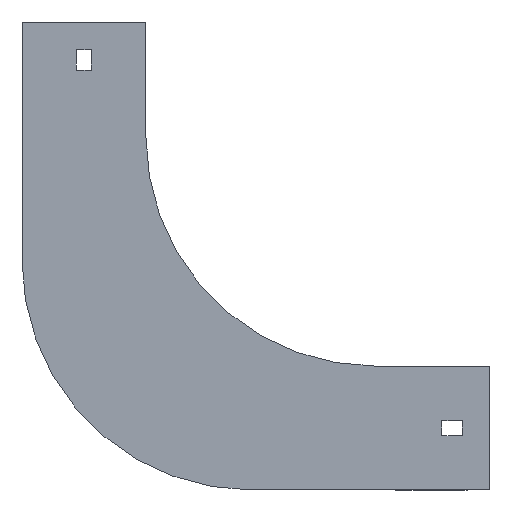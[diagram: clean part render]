
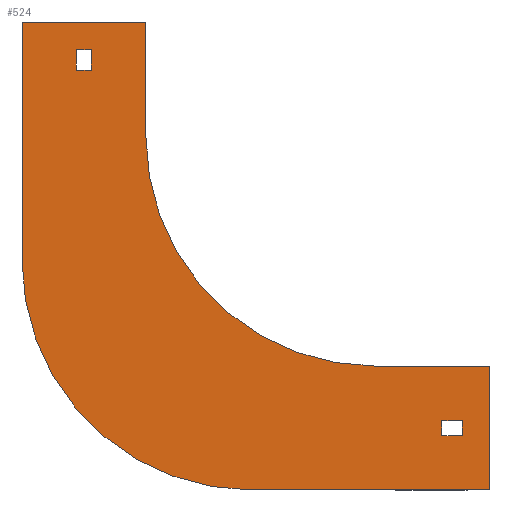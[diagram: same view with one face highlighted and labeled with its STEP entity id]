
A CAD part, front view. The second image highlights one B-rep face of the part: STEP entity #524.
In plain terms, the highlighted planar face has unit normal (0, -1, 0).
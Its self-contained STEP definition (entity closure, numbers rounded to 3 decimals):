
#5 = LINE ( 'NONE', #406, #955 ) ;
#6 = EDGE_CURVE ( 'NONE', #319, #623, #618, .T. ) ;
#16 = EDGE_CURVE ( 'NONE', #284, #1351, #1185, .T. ) ;
#26 = LINE ( 'NONE', #243, #868 ) ;
#35 = DIRECTION ( 'NONE',  ( 0., 1., 0. ) ) ;
#43 = CARTESIAN_POINT ( 'NONE',  ( -100., 0., 0. ) ) ;
#50 = CARTESIAN_POINT ( 'NONE',  ( -54., 0., -54. ) ) ;
#81 = VERTEX_POINT ( 'NONE', #441 ) ;
#113 = VECTOR ( 'NONE', #256, 1000. ) ;
#126 = LINE ( 'NONE', #567, #429 ) ;
#139 = CARTESIAN_POINT ( 'NONE',  ( 29., 0., -130.25 ) ) ;
#199 = CARTESIAN_POINT ( 'NONE',  ( 50., 0., -100. ) ) ;
#201 = CIRCLE ( 'NONE', #730, 100. ) ;
#203 = ORIENTED_EDGE ( 'NONE', *, *, #522, .F. ) ;
#205 = VECTOR ( 'NONE', #493, 1000. ) ;
#224 = DIRECTION ( 'NONE',  ( 0., -1., 0. ) ) ;
#240 = CARTESIAN_POINT ( 'NONE',  ( -100., 0., 50. ) ) ;
#243 = CARTESIAN_POINT ( 'NONE',  ( -130.25, 0., 29. ) ) ;
#250 = CARTESIAN_POINT ( 'NONE',  ( -123.75, 0., 38. ) ) ;
#256 = DIRECTION ( 'NONE',  ( 0., 0., 1. ) ) ;
#265 = CARTESIAN_POINT ( 'NONE',  ( 38., 0., -130.25 ) ) ;
#266 = LINE ( 'NONE', #823, #1236 ) ;
#284 = VERTEX_POINT ( 'NONE', #742 ) ;
#303 = DIRECTION ( 'NONE',  ( 0., 0., -1. ) ) ;
#319 = VERTEX_POINT ( 'NONE', #139 ) ;
#321 = DIRECTION ( 'NONE',  ( 1., 0., 0. ) ) ;
#324 = CARTESIAN_POINT ( 'NONE',  ( -123.75, 0., 29. ) ) ;
#325 = PLANE ( 'NONE',  #338 ) ;
#338 = AXIS2_PLACEMENT_3D ( 'NONE', #746, #224, #635 ) ;
#340 = CARTESIAN_POINT ( 'NONE',  ( 0., 0., 0. ) ) ;
#377 = VERTEX_POINT ( 'NONE', #43 ) ;
#406 = CARTESIAN_POINT ( 'NONE',  ( 29., 0., -130.25 ) ) ;
#411 = VERTEX_POINT ( 'NONE', #1031 ) ;
#414 = FACE_OUTER_BOUND ( 'NONE', #1184, .T. ) ;
#423 = EDGE_CURVE ( 'NONE', #1351, #1176, #1153, .T. ) ;
#425 = CARTESIAN_POINT ( 'NONE',  ( -130.25, 0., 38. ) ) ;
#429 = VECTOR ( 'NONE', #874, 1000. ) ;
#441 = CARTESIAN_POINT ( 'NONE',  ( -130.25, 0., 38. ) ) ;
#455 = DIRECTION ( 'NONE',  ( 0., 0., 1. ) ) ;
#459 = DIRECTION ( 'NONE',  ( 1., 0., 0. ) ) ;
#467 = CARTESIAN_POINT ( 'NONE',  ( -154., 0., 50. ) ) ;
#471 = DIRECTION ( 'NONE',  ( 0., 0., 1. ) ) ;
#473 = ORIENTED_EDGE ( 'NONE', *, *, #889, .F. ) ;
#491 = VECTOR ( 'NONE', #321, 1000. ) ;
#493 = DIRECTION ( 'NONE',  ( -1., 0., 0. ) ) ;
#501 = ORIENTED_EDGE ( 'NONE', *, *, #1152, .F. ) ;
#505 = EDGE_LOOP ( 'NONE', ( #764, #944, #765, #1268 ) ) ;
#522 = EDGE_CURVE ( 'NONE', #411, #319, #5, .T. ) ;
#524 = ADVANCED_FACE ( 'NONE', ( #976, #414, #852 ), #325, .T. ) ;
#528 = CARTESIAN_POINT ( 'NONE',  ( 29., 0., -130.25 ) ) ;
#543 = AXIS2_PLACEMENT_3D ( 'NONE', #340, #668, #554 ) ;
#553 = EDGE_CURVE ( 'NONE', #960, #1374, #1331, .T. ) ;
#554 = DIRECTION ( 'NONE',  ( 0., 0., -1. ) ) ;
#567 = CARTESIAN_POINT ( 'NONE',  ( -100., 0., 50. ) ) ;
#587 = VERTEX_POINT ( 'NONE', #250 ) ;
#588 = DIRECTION ( 'NONE',  ( -1., 0., 0. ) ) ;
#618 = LINE ( 'NONE', #528, #887 ) ;
#619 = DIRECTION ( 'NONE',  ( 0., 0., -1. ) ) ;
#623 = VERTEX_POINT ( 'NONE', #734 ) ;
#635 = DIRECTION ( 'NONE',  ( 0., 0., -1. ) ) ;
#643 = CARTESIAN_POINT ( 'NONE',  ( -154., 0., -54. ) ) ;
#658 = CARTESIAN_POINT ( 'NONE',  ( 50., 0., -154. ) ) ;
#664 = VECTOR ( 'NONE', #619, 1000. ) ;
#668 = DIRECTION ( 'NONE',  ( 0., -1., 0. ) ) ;
#674 = LINE ( 'NONE', #691, #205 ) ;
#678 = EDGE_CURVE ( 'NONE', #587, #1382, #845, .T. ) ;
#682 = CARTESIAN_POINT ( 'NONE',  ( 50., 0., -154. ) ) ;
#691 = CARTESIAN_POINT ( 'NONE',  ( 29., 0., -123.75 ) ) ;
#706 = ORIENTED_EDGE ( 'NONE', *, *, #553, .F. ) ;
#708 = EDGE_CURVE ( 'NONE', #623, #948, #790, .T. ) ;
#714 = VERTEX_POINT ( 'NONE', #240 ) ;
#720 = ORIENTED_EDGE ( 'NONE', *, *, #854, .F. ) ;
#725 = CARTESIAN_POINT ( 'NONE',  ( -154., 0., -54. ) ) ;
#726 = CIRCLE ( 'NONE', #543, 100. ) ;
#728 = EDGE_LOOP ( 'NONE', ( #925, #1305, #203, #1042 ) ) ;
#730 = AXIS2_PLACEMENT_3D ( 'NONE', #50, #35, #471 ) ;
#734 = CARTESIAN_POINT ( 'NONE',  ( 38., 0., -130.25 ) ) ;
#742 = CARTESIAN_POINT ( 'NONE',  ( 0., 0., -100. ) ) ;
#746 = CARTESIAN_POINT ( 'NONE',  ( 0., 0., 0. ) ) ;
#759 = VECTOR ( 'NONE', #1302, 1000. ) ;
#764 = ORIENTED_EDGE ( 'NONE', *, *, #1072, .T. ) ;
#765 = ORIENTED_EDGE ( 'NONE', *, *, #678, .T. ) ;
#770 = DIRECTION ( 'NONE',  ( -1., 0., 0. ) ) ;
#783 = VECTOR ( 'NONE', #455, 1000. ) ;
#790 = LINE ( 'NONE', #265, #783 ) ;
#823 = CARTESIAN_POINT ( 'NONE',  ( -130.25, 0., 29. ) ) ;
#829 = CARTESIAN_POINT ( 'NONE',  ( 38., 0., -123.75 ) ) ;
#839 = LINE ( 'NONE', #985, #858 ) ;
#842 = CARTESIAN_POINT ( 'NONE',  ( 50., 0., -100. ) ) ;
#845 = LINE ( 'NONE', #324, #759 ) ;
#852 = FACE_BOUND ( 'NONE', #728, .T. ) ;
#854 = EDGE_CURVE ( 'NONE', #714, #377, #126, .T. ) ;
#858 = VECTOR ( 'NONE', #459, 1000. ) ;
#868 = VECTOR ( 'NONE', #770, 1000. ) ;
#874 = DIRECTION ( 'NONE',  ( 0., 0., -1. ) ) ;
#887 = VECTOR ( 'NONE', #1297, 1000. ) ;
#889 = EDGE_CURVE ( 'NONE', #377, #284, #726, .T. ) ;
#925 = ORIENTED_EDGE ( 'NONE', *, *, #708, .F. ) ;
#926 = DIRECTION ( 'NONE',  ( 0., 0., 1. ) ) ;
#932 = ORIENTED_EDGE ( 'NONE', *, *, #1226, .F. ) ;
#944 = ORIENTED_EDGE ( 'NONE', *, *, #1309, .T. ) ;
#948 = VERTEX_POINT ( 'NONE', #829 ) ;
#955 = VECTOR ( 'NONE', #303, 1000. ) ;
#960 = VERTEX_POINT ( 'NONE', #725 ) ;
#969 = EDGE_CURVE ( 'NONE', #1374, #714, #839, .T. ) ;
#976 = FACE_BOUND ( 'NONE', #505, .T. ) ;
#985 = CARTESIAN_POINT ( 'NONE',  ( -154., 0., 50. ) ) ;
#992 = CARTESIAN_POINT ( 'NONE',  ( -54., 0., -154. ) ) ;
#1031 = CARTESIAN_POINT ( 'NONE',  ( 29., 0., -123.75 ) ) ;
#1042 = ORIENTED_EDGE ( 'NONE', *, *, #1165, .F. ) ;
#1066 = CARTESIAN_POINT ( 'NONE',  ( -130.25, 0., 29. ) ) ;
#1071 = CARTESIAN_POINT ( 'NONE',  ( 0., 0., -100. ) ) ;
#1072 = EDGE_CURVE ( 'NONE', #1246, #81, #266, .T. ) ;
#1075 = DIRECTION ( 'NONE',  ( 1., 0., 0. ) ) ;
#1093 = LINE ( 'NONE', #425, #1197 ) ;
#1136 = VERTEX_POINT ( 'NONE', #992 ) ;
#1152 = EDGE_CURVE ( 'NONE', #1176, #1136, #1218, .T. ) ;
#1153 = LINE ( 'NONE', #199, #664 ) ;
#1163 = EDGE_CURVE ( 'NONE', #1382, #1246, #26, .T. ) ;
#1165 = EDGE_CURVE ( 'NONE', #948, #411, #674, .T. ) ;
#1172 = ORIENTED_EDGE ( 'NONE', *, *, #969, .F. ) ;
#1176 = VERTEX_POINT ( 'NONE', #658 ) ;
#1184 = EDGE_LOOP ( 'NONE', ( #1172, #706, #932, #501, #1212, #1274, #473, #720 ) ) ;
#1185 = LINE ( 'NONE', #1071, #491 ) ;
#1197 = VECTOR ( 'NONE', #1075, 1000. ) ;
#1212 = ORIENTED_EDGE ( 'NONE', *, *, #423, .F. ) ;
#1218 = LINE ( 'NONE', #682, #1384 ) ;
#1226 = EDGE_CURVE ( 'NONE', #1136, #960, #201, .T. ) ;
#1236 = VECTOR ( 'NONE', #926, 1000. ) ;
#1244 = CARTESIAN_POINT ( 'NONE',  ( -123.75, 0., 29. ) ) ;
#1246 = VERTEX_POINT ( 'NONE', #1066 ) ;
#1268 = ORIENTED_EDGE ( 'NONE', *, *, #1163, .T. ) ;
#1274 = ORIENTED_EDGE ( 'NONE', *, *, #16, .F. ) ;
#1297 = DIRECTION ( 'NONE',  ( 1., 0., 0. ) ) ;
#1302 = DIRECTION ( 'NONE',  ( 0., 0., -1. ) ) ;
#1305 = ORIENTED_EDGE ( 'NONE', *, *, #6, .F. ) ;
#1309 = EDGE_CURVE ( 'NONE', #81, #587, #1093, .T. ) ;
#1331 = LINE ( 'NONE', #643, #113 ) ;
#1351 = VERTEX_POINT ( 'NONE', #842 ) ;
#1374 = VERTEX_POINT ( 'NONE', #467 ) ;
#1382 = VERTEX_POINT ( 'NONE', #1244 ) ;
#1384 = VECTOR ( 'NONE', #588, 1000. ) ;
